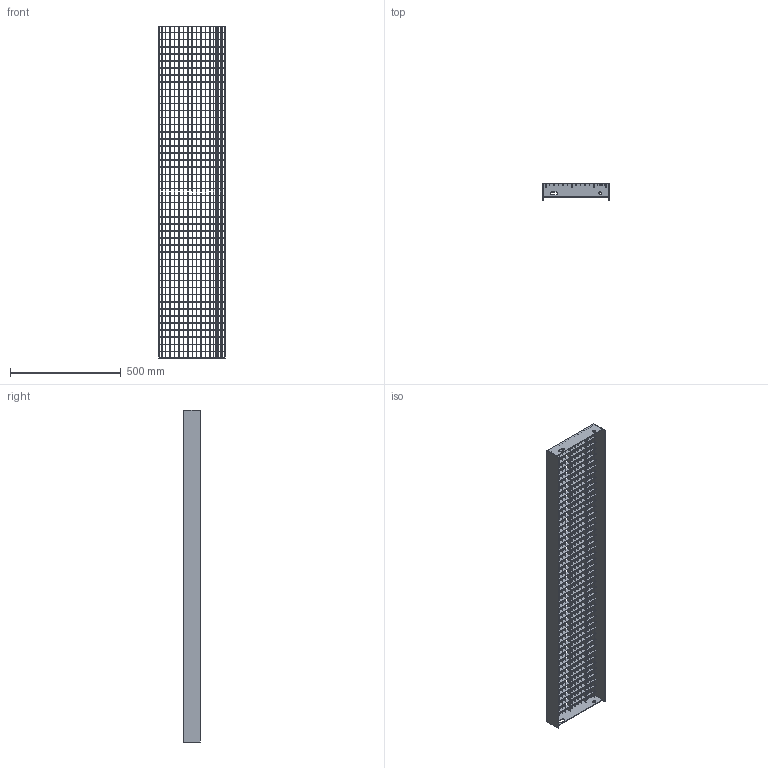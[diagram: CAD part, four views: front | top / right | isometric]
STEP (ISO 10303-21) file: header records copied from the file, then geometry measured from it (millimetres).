
FILE_DESCRIPTION (( 'STEP AP203' ), '1' );
FILE_NAME ('23007305S_ Gitterristetrin_300x1200mm.STEP', '2014-12-15T12:50:15', ( '' ), ( '' ), 'SwSTEP 2.0', 'SolidWorks 2013', '' );
FILE_SCHEMA (( 'CONFIG_CONTROL_DESIGN' ));
Length unit declared in the file: millimetre
Products named in the file (9): Fylderibbe_m_savtak_10x2x1494mm; Styreribbe_20x2x1494mm; Styreribbe_m_savtak_20x2x1494mm; 23007305S_ Gitterristetrin_300x1200mm; Endestykke_60x3x294mm; Kantstaal_75x3x1500mm; Kantstaal_m_savtak_75x3x1500mm (2); Baereribbe_20x2x294; Fylderibbe_10x2x1494mm
Assembly tree (67 placements, depth 2):
  23007305S_ Gitterristetrin_300x1200mm
    Endestykke_60x3x294mm  x2
    Kantstaal_75x3x1500mm
    Kantstaal_m_savtak_75x3x1500mm (2)
    Baereribbe_20x2x294  x46
    Fylderibbe_10x2x1494mm  x9
    Fylderibbe_m_savtak_10x2x1494mm  x4
    Styreribbe_20x2x1494mm  x3
    Styreribbe_m_savtak_20x2x1494mm
Bounding box: 300 x 75 x 1500 mm (x, y, z)
Volume: 1887158.9 mm3; surface area: 1856571.9 mm2
Topology: 67 solids, 67 shells, 9340 faces, 27618 edges, 18412 vertices
Faces by surface type: plane 8068, cylinder 1272
Full cylindrical faces by diameter (mm): 14 x2
Entity records: 103451 total; most frequent: CARTESIAN_POINT 18115, ORIENTED_EDGE 18028, DIRECTION 16468, EDGE_CURVE 9014, VECTOR 7742, LINE 7742, VERTEX_POINT 6010, AXIS2_PLACEMENT_3D 4363
